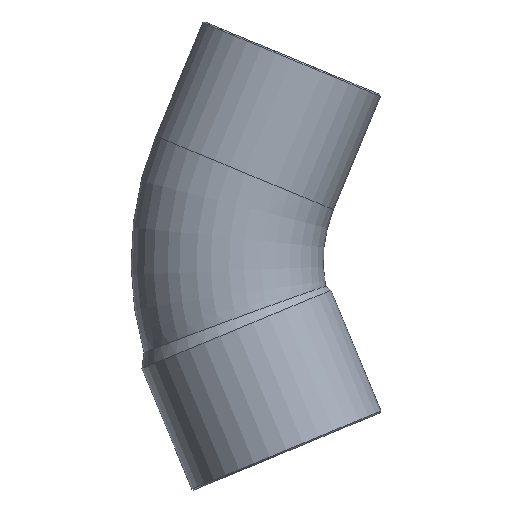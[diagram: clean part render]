
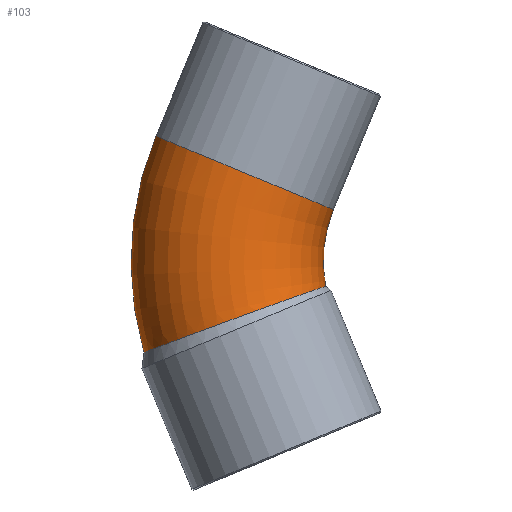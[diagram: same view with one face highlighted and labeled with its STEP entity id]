
A CAD part, front view. The second image highlights one B-rep face of the part: STEP entity #103.
In plain terms, the highlighted toroidal (fillet/blend) face has major radius 33.6 mm and minor radius 14 mm.
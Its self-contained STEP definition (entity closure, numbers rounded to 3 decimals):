
#44=CARTESIAN_POINT('',(4.435,0.,0.));
#45=DIRECTION('',(0.,1.0,0.));
#46=DIRECTION('',(-0.383,0.,0.924));
#47=AXIS2_PLACEMENT_3D('',#44,#45,#46);
#48=TOROIDAL_SURFACE('',#47,33.6,14.);
#49=CARTESIAN_POINT('',(-41.272,0.,-13.289));
#50=VERTEX_POINT('',#49);
#51=CARTESIAN_POINT('',(-39.542,0.,18.216));
#52=VERTEX_POINT('',#51);
#53=CARTESIAN_POINT('',(4.435,0.,0.));
#54=DIRECTION('',(0.0,1.0,0.0));
#55=DIRECTION('',(0.0,0.0,1.0));
#56=AXIS2_PLACEMENT_3D('',#53,#54,#55);
#57=CIRCLE('',#56,47.6);
#58=EDGE_CURVE('',#50,#52,#57,.T.);
#59=ORIENTED_EDGE('',*,*,#58,.F.);
#60=CARTESIAN_POINT('',(-14.823,0.,-3.645));
#61=VERTEX_POINT('',#60);
#62=CARTESIAN_POINT('',(-41.272,0.,-13.289));
#63=CARTESIAN_POINT('',(-41.272,-1.03,-13.289));
#64=CARTESIAN_POINT('',(-41.166,-2.058,-13.249));
#65=CARTESIAN_POINT('',(-40.742,-4.069,-13.089));
#66=CARTESIAN_POINT('',(-40.427,-5.046,-12.97));
#67=CARTESIAN_POINT('',(-39.283,-7.627,-12.539));
#68=CARTESIAN_POINT('',(-38.257,-9.107,-12.153));
#69=CARTESIAN_POINT('',(-35.724,-11.57,-11.204));
#70=CARTESIAN_POINT('',(-34.241,-12.526,-10.649));
#71=CARTESIAN_POINT('',(-31.004,-13.781,-9.447));
#72=CARTESIAN_POINT('',(-29.281,-14.064,-8.81));
#73=CARTESIAN_POINT('',(-25.824,-13.912,-7.544));
#74=CARTESIAN_POINT('',(-24.123,-13.476,-6.926));
#75=CARTESIAN_POINT('',(-20.979,-11.94,-5.797));
#76=CARTESIAN_POINT('',(-19.563,-10.857,-5.294));
#77=CARTESIAN_POINT('',(-17.212,-8.191,-4.468));
#78=CARTESIAN_POINT('',(-16.294,-6.637,-4.151));
#79=CARTESIAN_POINT('',(-15.115,-3.361,-3.744));
#80=CARTESIAN_POINT('',(-14.823,-1.688,-3.645));
#81=CARTESIAN_POINT('',(-14.823,0.,-3.645));
#82=B_SPLINE_CURVE_WITH_KNOTS('',3,(#62,#63,#64,#65,#66,#67,#68,#69,#70,#71,#72,#73,#74,#75,#76,#77,#78,#79,#80,#81),.UNSPECIFIED.,.F.,.U.,(4,2,2,2,2,2,2,2,2,4),(-8.846,-8.537,-8.227,-7.68,-7.13,-6.578,-6.025,-5.475,-4.93,-4.423),.UNSPECIFIED.);
#83=EDGE_CURVE('',#50,#61,#82,.T.);
#84=ORIENTED_EDGE('',*,*,#83,.T.);
#85=CARTESIAN_POINT('',(-13.673,0.,7.501));
#86=VERTEX_POINT('',#85);
#87=CARTESIAN_POINT('',(4.435,0.,0.));
#88=DIRECTION('',(0.0,-1.0,0.0));
#89=DIRECTION('',(0.0,0.0,1.0));
#90=AXIS2_PLACEMENT_3D('',#87,#88,#89);
#91=CIRCLE('',#90,19.6);
#92=EDGE_CURVE('',#86,#61,#91,.T.);
#93=ORIENTED_EDGE('',*,*,#92,.F.);
#94=CARTESIAN_POINT('',(-26.607,0.,12.858));
#95=DIRECTION('',(-0.383,0.,-0.924));
#96=DIRECTION('',(-0.924,0.,0.383));
#97=AXIS2_PLACEMENT_3D('',#94,#95,#96);
#98=CIRCLE('',#97,14.);
#99=EDGE_CURVE('',#86,#52,#98,.T.);
#100=ORIENTED_EDGE('',*,*,#99,.T.);
#101=EDGE_LOOP('',(#59,#84,#93,#100));
#102=FACE_OUTER_BOUND('',#101,.T.);
#103=ADVANCED_FACE('',(#102),#48,.T.);
